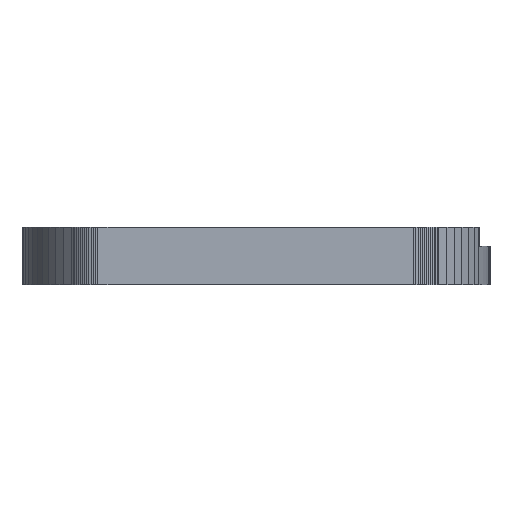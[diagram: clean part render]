
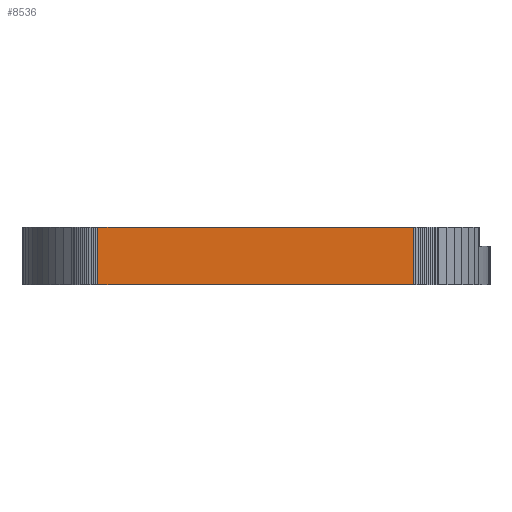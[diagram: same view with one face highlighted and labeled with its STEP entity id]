
A CAD part, front view. The second image highlights one B-rep face of the part: STEP entity #8536.
In plain terms, the highlighted free-form (B-spline) face has degree [1, 1] with [2, 2] control points.
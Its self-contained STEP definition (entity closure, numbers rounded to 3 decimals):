
#67 = B_SPLINE_SURFACE_WITH_KNOTS('',1,1,(
    (#68,#69)
    ,(#70,#71
    )),.UNSPECIFIED.,.F.,.F.,.F.,(2,2),(2,2),(-924.852,
    967.868),(-572.848,573.233),
  .PIECEWISE_BEZIER_KNOTS.);
#68 = CARTESIAN_POINT('',(42.27,-14.55,6.
    ));
#69 = CARTESIAN_POINT('',(42.27,14.56,6.
    ));
#70 = CARTESIAN_POINT('',(-5.805,-14.55,6.
    ));
#71 = CARTESIAN_POINT('',(-5.805,14.56,6.
    ));
#115 = B_SPLINE_SURFACE_WITH_KNOTS('',1,1,(
    (#116,#117)
    ,(#118,#119
    )),.UNSPECIFIED.,.F.,.F.,.F.,(2,2),(2,2),(-967.924,
    967.868),(-572.848,573.233),
  .PIECEWISE_BEZIER_KNOTS.);
#116 = CARTESIAN_POINT('',(43.364,-14.55,0.));
#117 = CARTESIAN_POINT('',(43.364,14.56,0.));
#118 = CARTESIAN_POINT('',(-5.805,-14.55,0.));
#119 = CARTESIAN_POINT('',(-5.805,14.56,0.));
#2136 = VERTEX_POINT('',#2137);
#2137 = CARTESIAN_POINT('',(35.357,-14.55,0.));
#2149 = B_SPLINE_SURFACE_WITH_KNOTS('',1,1,(
    (#2150,#2151)
    ,(#2152,#2153
    )),.UNSPECIFIED.,.F.,.F.,.F.,(2,2),(2,2),(0.,9.013),(
    -236.221,0.),.PIECEWISE_BEZIER_KNOTS.);
#2150 = CARTESIAN_POINT('',(35.586,-14.543,
    6.));
#2151 = CARTESIAN_POINT('',(35.586,-14.543,0.));
#2152 = CARTESIAN_POINT('',(35.357,-14.55,
    6.));
#2153 = CARTESIAN_POINT('',(35.357,-14.55,0.));
#2160 = EDGE_CURVE('',#2136,#2161,#2163,.T.);
#2161 = VERTEX_POINT('',#2162);
#2162 = CARTESIAN_POINT('',(2.177,-14.548,0.));
#2163 = SURFACE_CURVE('',#2164,(#2167,#2173),.PCURVE_S1.);
#2164 = B_SPLINE_CURVE_WITH_KNOTS('',1,(#2165,#2166),.UNSPECIFIED.,.F.,
  .F.,(2,2),(0.,1306.274),.PIECEWISE_BEZIER_KNOTS.);
#2165 = CARTESIAN_POINT('',(35.357,-14.55,0.));
#2166 = CARTESIAN_POINT('',(2.177,-14.548,0.));
#2167 = PCURVE('',#115,#2168);
#2168 = DEFINITIONAL_REPRESENTATION('',(#2169),#2172);
#2169 = B_SPLINE_CURVE_WITH_KNOTS('',1,(#2170,#2171),.UNSPECIFIED.,.F.,
  .F.,(2,2),(0.,1306.274),.PIECEWISE_BEZIER_KNOTS.);
#2170 = CARTESIAN_POINT('',(-652.665,-572.848));
#2171 = CARTESIAN_POINT('',(653.608,-572.776));
#2172 = ( GEOMETRIC_REPRESENTATION_CONTEXT(2) 
PARAMETRIC_REPRESENTATION_CONTEXT() REPRESENTATION_CONTEXT('2D SPACE',''
  ) );
#2173 = PCURVE('',#2174,#2179);
#2174 = B_SPLINE_SURFACE_WITH_KNOTS('',1,1,(
    (#2175,#2176)
    ,(#2177,#2178
    )),.UNSPECIFIED.,.F.,.F.,.F.,(2,2),(2,2),(0.,1306.274),(
    -236.221,0.),.PIECEWISE_BEZIER_KNOTS.);
#2175 = CARTESIAN_POINT('',(35.357,-14.55,
    6.));
#2176 = CARTESIAN_POINT('',(35.357,-14.55,0.));
#2177 = CARTESIAN_POINT('',(2.177,-14.548,6.
    ));
#2178 = CARTESIAN_POINT('',(2.177,-14.548,0.));
#2179 = DEFINITIONAL_REPRESENTATION('',(#2180),#2183);
#2180 = B_SPLINE_CURVE_WITH_KNOTS('',1,(#2181,#2182),.UNSPECIFIED.,.F.,
  .F.,(2,2),(0.,1306.274),.PIECEWISE_BEZIER_KNOTS.);
#2181 = CARTESIAN_POINT('',(0.,0.));
#2182 = CARTESIAN_POINT('',(1306.274,0.));
#2183 = ( GEOMETRIC_REPRESENTATION_CONTEXT(2) 
PARAMETRIC_REPRESENTATION_CONTEXT() REPRESENTATION_CONTEXT('2D SPACE',''
  ) );
#2199 = B_SPLINE_SURFACE_WITH_KNOTS('',1,1,(
    (#2200,#2201)
    ,(#2202,#2203
    )),.UNSPECIFIED.,.F.,.F.,.F.,(2,2),(2,2),(0.,9.649),(
    -236.221,0.),.PIECEWISE_BEZIER_KNOTS.);
#2200 = CARTESIAN_POINT('',(2.177,-14.548,6.
    ));
#2201 = CARTESIAN_POINT('',(2.177,-14.548,0.));
#2202 = CARTESIAN_POINT('',(1.933,-14.54,
    6.));
#2203 = CARTESIAN_POINT('',(1.933,-14.54,0.));
#6936 = VERTEX_POINT('',#6937);
#6937 = CARTESIAN_POINT('',(35.357,-14.55,
    6.));
#6955 = EDGE_CURVE('',#6936,#6956,#6958,.T.);
#6956 = VERTEX_POINT('',#6957);
#6957 = CARTESIAN_POINT('',(2.177,-14.548,6.
    ));
#6958 = SURFACE_CURVE('',#6959,(#6962,#6968),.PCURVE_S1.);
#6959 = B_SPLINE_CURVE_WITH_KNOTS('',1,(#6960,#6961),.UNSPECIFIED.,.F.,
  .F.,(2,2),(0.,1306.274),.PIECEWISE_BEZIER_KNOTS.);
#6960 = CARTESIAN_POINT('',(35.357,-14.55,
    6.));
#6961 = CARTESIAN_POINT('',(2.177,-14.548,6.
    ));
#6962 = PCURVE('',#67,#6963);
#6963 = DEFINITIONAL_REPRESENTATION('',(#6964),#6967);
#6964 = B_SPLINE_CURVE_WITH_KNOTS('',1,(#6965,#6966),.UNSPECIFIED.,.F.,
  .F.,(2,2),(0.,1306.274),.PIECEWISE_BEZIER_KNOTS.);
#6965 = CARTESIAN_POINT('',(-652.665,-572.848));
#6966 = CARTESIAN_POINT('',(653.608,-572.776));
#6967 = ( GEOMETRIC_REPRESENTATION_CONTEXT(2) 
PARAMETRIC_REPRESENTATION_CONTEXT() REPRESENTATION_CONTEXT('2D SPACE',''
  ) );
#6968 = PCURVE('',#2174,#6969);
#6969 = DEFINITIONAL_REPRESENTATION('',(#6970),#6973);
#6970 = B_SPLINE_CURVE_WITH_KNOTS('',1,(#6971,#6972),.UNSPECIFIED.,.F.,
  .F.,(2,2),(0.,1306.274),.PIECEWISE_BEZIER_KNOTS.);
#6971 = CARTESIAN_POINT('',(0.,-236.221));
#6972 = CARTESIAN_POINT('',(1306.274,-236.221));
#6973 = ( GEOMETRIC_REPRESENTATION_CONTEXT(2) 
PARAMETRIC_REPRESENTATION_CONTEXT() REPRESENTATION_CONTEXT('2D SPACE',''
  ) );
#8492 = EDGE_CURVE('',#2161,#6956,#8493,.T.);
#8493 = SURFACE_CURVE('',#8494,(#8497,#8503),.PCURVE_S1.);
#8494 = B_SPLINE_CURVE_WITH_KNOTS('',1,(#8495,#8496),.UNSPECIFIED.,.F.,
  .F.,(2,2),(0.,236.221),.PIECEWISE_BEZIER_KNOTS.);
#8495 = CARTESIAN_POINT('',(2.177,-14.548,0.));
#8496 = CARTESIAN_POINT('',(2.177,-14.548,6.
    ));
#8497 = PCURVE('',#2199,#8498);
#8498 = DEFINITIONAL_REPRESENTATION('',(#8499),#8502);
#8499 = B_SPLINE_CURVE_WITH_KNOTS('',1,(#8500,#8501),.UNSPECIFIED.,.F.,
  .F.,(2,2),(0.,236.221),.PIECEWISE_BEZIER_KNOTS.);
#8500 = CARTESIAN_POINT('',(0.,0.));
#8501 = CARTESIAN_POINT('',(0.,-236.221));
#8502 = ( GEOMETRIC_REPRESENTATION_CONTEXT(2) 
PARAMETRIC_REPRESENTATION_CONTEXT() REPRESENTATION_CONTEXT('2D SPACE',''
  ) );
#8503 = PCURVE('',#2174,#8504);
#8504 = DEFINITIONAL_REPRESENTATION('',(#8505),#8508);
#8505 = B_SPLINE_CURVE_WITH_KNOTS('',1,(#8506,#8507),.UNSPECIFIED.,.F.,
  .F.,(2,2),(0.,236.221),.PIECEWISE_BEZIER_KNOTS.);
#8506 = CARTESIAN_POINT('',(1306.274,0.));
#8507 = CARTESIAN_POINT('',(1306.274,-236.221));
#8508 = ( GEOMETRIC_REPRESENTATION_CONTEXT(2) 
PARAMETRIC_REPRESENTATION_CONTEXT() REPRESENTATION_CONTEXT('2D SPACE',''
  ) );
#8536 = ADVANCED_FACE('',(#8537),#2174,.T.);
#8537 = FACE_BOUND('',#8538,.T.);
#8538 = EDGE_LOOP('',(#8539,#8557,#8558,#8559));
#8539 = ORIENTED_EDGE('',*,*,#8540,.T.);
#8540 = EDGE_CURVE('',#2136,#6936,#8541,.T.);
#8541 = SURFACE_CURVE('',#8542,(#8545,#8551),.PCURVE_S1.);
#8542 = B_SPLINE_CURVE_WITH_KNOTS('',1,(#8543,#8544),.UNSPECIFIED.,.F.,
  .F.,(2,2),(0.,236.221),.PIECEWISE_BEZIER_KNOTS.);
#8543 = CARTESIAN_POINT('',(35.357,-14.55,0.));
#8544 = CARTESIAN_POINT('',(35.357,-14.55,
    6.));
#8545 = PCURVE('',#2174,#8546);
#8546 = DEFINITIONAL_REPRESENTATION('',(#8547),#8550);
#8547 = B_SPLINE_CURVE_WITH_KNOTS('',1,(#8548,#8549),.UNSPECIFIED.,.F.,
  .F.,(2,2),(0.,236.221),.PIECEWISE_BEZIER_KNOTS.);
#8548 = CARTESIAN_POINT('',(0.,0.));
#8549 = CARTESIAN_POINT('',(0.,-236.221));
#8550 = ( GEOMETRIC_REPRESENTATION_CONTEXT(2) 
PARAMETRIC_REPRESENTATION_CONTEXT() REPRESENTATION_CONTEXT('2D SPACE',''
  ) );
#8551 = PCURVE('',#2149,#8552);
#8552 = DEFINITIONAL_REPRESENTATION('',(#8553),#8556);
#8553 = B_SPLINE_CURVE_WITH_KNOTS('',1,(#8554,#8555),.UNSPECIFIED.,.F.,
  .F.,(2,2),(0.,236.221),.PIECEWISE_BEZIER_KNOTS.);
#8554 = CARTESIAN_POINT('',(9.013,0.));
#8555 = CARTESIAN_POINT('',(9.013,-236.221));
#8556 = ( GEOMETRIC_REPRESENTATION_CONTEXT(2) 
PARAMETRIC_REPRESENTATION_CONTEXT() REPRESENTATION_CONTEXT('2D SPACE',''
  ) );
#8557 = ORIENTED_EDGE('',*,*,#6955,.T.);
#8558 = ORIENTED_EDGE('',*,*,#8492,.F.);
#8559 = ORIENTED_EDGE('',*,*,#2160,.F.);
